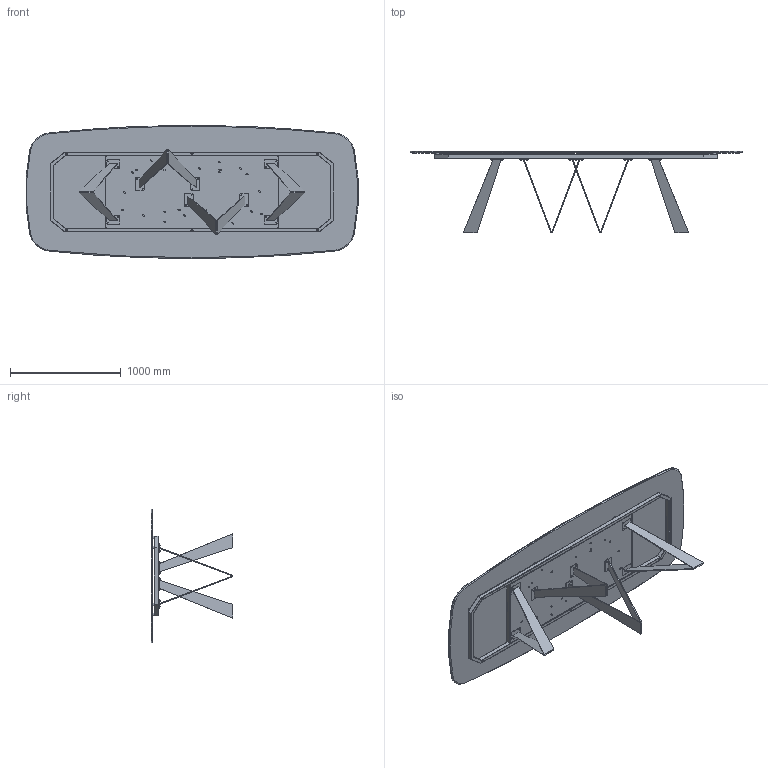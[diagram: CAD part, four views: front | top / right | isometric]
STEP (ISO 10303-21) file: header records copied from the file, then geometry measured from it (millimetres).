
FILE_DESCRIPTION (( 'STEP AP203' ), '1' );
FILE_NAME ('NO44C_Noa_300x120x75h_Ceramic Shaped.STEP', '2024-08-07T14:32:16', ( '' ), ( '' ), 'SwSTEP 2.0', 'SolidWorks 2022', '' );
FILE_SCHEMA (( 'CONFIG_CONTROL_DESIGN' ));
Length unit declared in the file: millimetre
Products named in the file (14): 434070-00-PIEDINO TPV GOMMA NERO D. 30x8max18; Assieme NOA var 3_noa 300-320; TTAV07_01-04-STRUTTURA TAVOLI PLAI ONDA NOA 300; K4XCMXX-00-Piani Sagomati in ceramica_3000 x 1200; NOA000001GMB-00-Piastra Principale gamba NOA_Piatto SX; M8xXXmm_M8x20mm; 434070-00-PIEDINO TPV GOMMA NERO D. 30x8max18_filo estetico; NOA000001PTRS-00-Piastra rettangoalre con fori; TTAV07-04-TELAIO X TAVOLI PLAI ONDA NOA 300; NOA000001GMB-00-Piastra Principale gamba NOA_Piatto DX; MAPPA; NO44C_Noa_300x120x75h_Ceramic Shaped; NOA000000-00-NOA BASE GREZZA; TTAV07_02-01-VASSOIO TELAIO  PLAI ONDA NOA 300
Assembly tree (39 placements, depth 4):
  MAPPA
  NO44C_Noa_300x120x75h_Ceramic Shaped
    K4XCMXX-00-Piani Sagomati in ceramica_3000 x 1200
    Assieme NOA var 3_noa 300-320
      NOA000000-00-NOA BASE GREZZA  x4
        NOA000001GMB-00-Piastra Principale gamba NOA_Piatto SX
        NOA000001GMB-00-Piastra Principale gamba NOA_Piatto DX
        NOA000001PTRS-00-Piastra rettangoalre con fori
      TTAV07-04-TELAIO X TAVOLI PLAI ONDA NOA 300
        TTAV07_01-04-STRUTTURA TAVOLI PLAI ONDA NOA 300
        TTAV07_02-01-VASSOIO TELAIO  PLAI ONDA NOA 300
    M8xXXmm_M8x20mm  x16
    434070-00-PIEDINO TPV GOMMA NERO D. 30x8max18  x9
    434070-00-PIEDINO TPV GOMMA NERO D. 30x8max18_filo estetico
Bounding box: 2991.72 x 735.8 x 1200 mm (x, y, z)
Volume: 64737566.3 mm3; surface area: 18940214.8 mm2
Topology: 56 solids, 56 shells, 1209 faces, 2813 edges, 1694 vertices
Faces by surface type: plane 526, cylinder 378, cone 185, torus 104, sphere 16
Entity records: 17263 total; most frequent: DIRECTION 2738, CARTESIAN_POINT 2665, ORIENTED_EDGE 2478, EDGE_CURVE 1239, AXIS2_PLACEMENT_3D 1005, VERTEX_POINT 782, VECTOR 728, LINE 728
